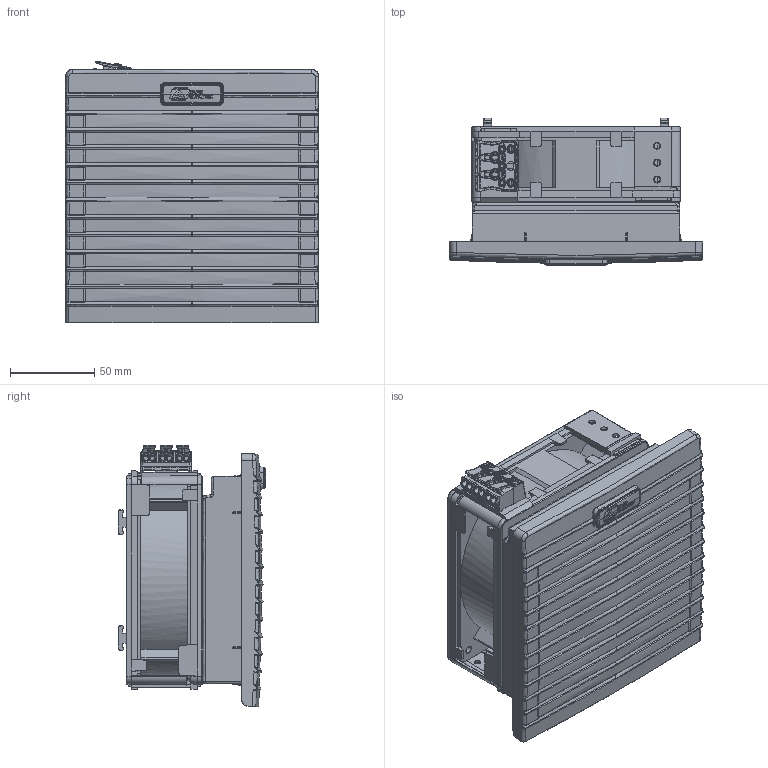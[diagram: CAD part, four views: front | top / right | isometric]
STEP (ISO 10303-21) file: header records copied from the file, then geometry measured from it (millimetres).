
FILE_DESCRIPTION(/* description */ (''),/* implementation_level */ '2;1');
FILE_NAME(/* name */ 'ATV220~2',/* time_stamp */ '2019-06-21T14:26:34+02:00',/* author */ (''),/* organization */ (''),/* preprocessor_version */ 'ST-DEVELOPER v16.5',/* originating_system */ '',/* authorisation */ '');
FILE_SCHEMA (('AUTOMOTIVE_DESIGN'));
Products named in the file (1): Document
Bounding box: 150 x 87.59 x 154.97 mm (x, y, z)
Volume: 111398.8 mm3; surface area: 386644.4 mm2
Topology: 2 solids, 4023 shells, 4259 faces, 21310 edges, 20909 vertices
Faces by surface type: bspline 2963, plane 1296
Entity records: 332939 total; most frequent: CARTESIAN_POINT 205159, ORIENTED_EDGE 21820, EDGE_CURVE 21148, VERTEX_POINT 20909, B_SPLINE_CURVE_WITH_KNOTS 17038, EDGE_LOOP 4411, ADVANCED_FACE 4259, FACE_OUTER_BOUND 4259
